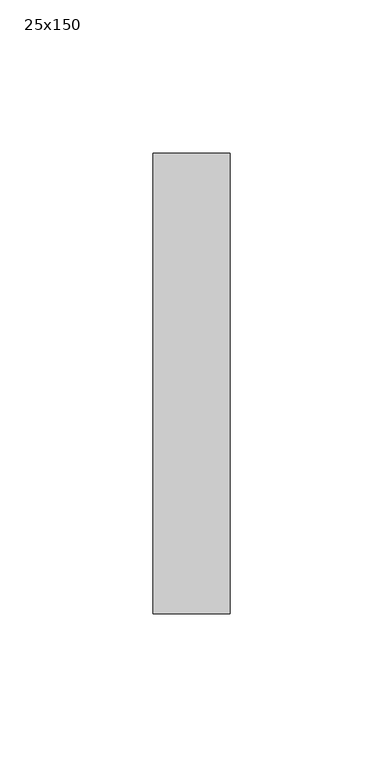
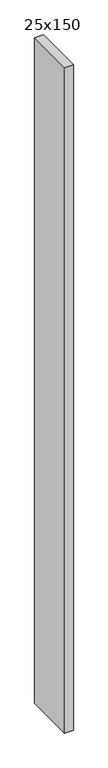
"""IFC4 building model written with IfcOpenShell, lengths in millimetres: member geometry, 長方形のマリオン : 25x150."""

from ifc_helpers import new_model, si_unit, frame, origin, place, context, project, spatial, polyline, outline, extrude, source, transform, mapped, element, save


def member_25x150_69a01d83(model_context):
    return source(origin(), model_context, "Body", "SweptSolid", [
        extrude(outline(polyline([(0.0, 75.0), (0.0, -75.0), (-25.0, -75.0), (-25.0, 75.0), (0.0, 75.0)])), frame((0.0, 0.0, -2033.3333334), z_axis=(0.0, 0.0, 1.0), x_axis=(1.0, 0.0, 0.0)), (0.0, 0.0, 1.0), 2033.3333334),
    ])


if __name__ == "__main__":
    model = new_model("IFC4")
    model_context = context("Model", 3, world=origin())
    ifc_project = project(units=[si_unit("LENGTHUNIT", "METRE", prefix="MILLI")], contexts=[model_context])
    site = spatial("IfcSite", under=ifc_project)
    building = spatial("IfcBuilding", under=site)
    placement = place(None, origin())
    member_25x150_shape = member_25x150_69a01d83(model_context)
    element("IfcMember", 1, ObjectType="長方形のマリオン : 25x150", at=placement, inside=building, context=model_context, shape_type="MappedRepresentation", body=[
        mapped(member_25x150_shape, transform((0.0, 0.0, 0.0), x_axis=(1.0, 0.0, 0.0), y_axis=(0.0, 1.0, 0.0), z_axis=(0.0, 0.0, 1.0))),
    ])
    save(model, "model.ifc")
